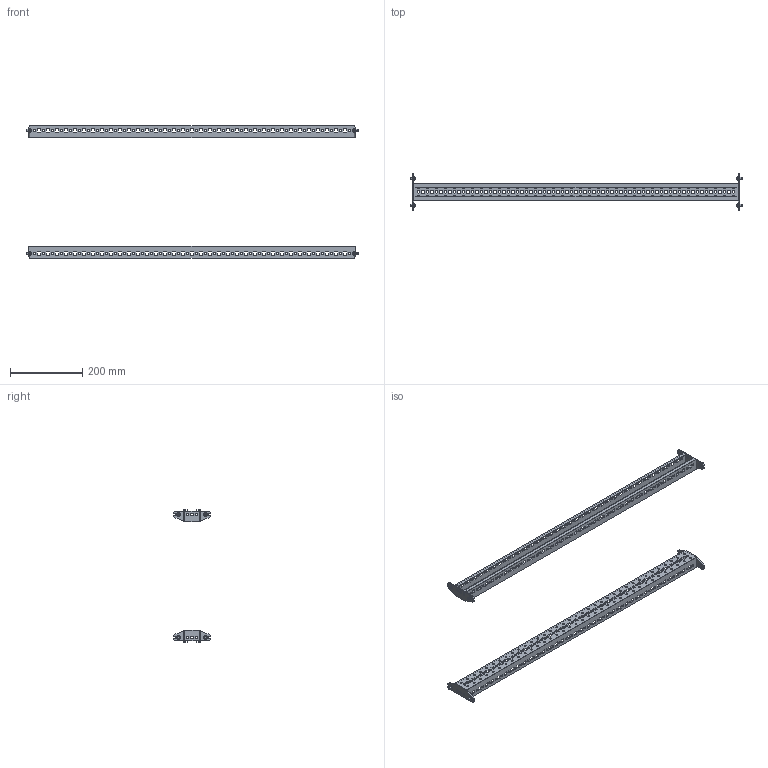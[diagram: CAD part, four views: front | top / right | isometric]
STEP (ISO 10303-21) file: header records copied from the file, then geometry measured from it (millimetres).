
FILE_DESCRIPTION (( 'STEP AP214' ), '1' );
FILE_NAME ('FO-00-VRC-100 Ðåéêà ìîíòàæíàÿ òèïà C 1000 ìì (2 øò.óïàê.).STEP', '2025-10-06T12:54:41', ( '' ), ( '' ), 'SwSTEP 2.0', 'SolidWorks 2023', '' );
FILE_SCHEMA (( 'AUTOMOTIVE_DESIGN' ));
Length unit declared in the file: millimetre
Products named in the file (3): FO-00-VRC-100 Рейка монтажная типа C 1000 мм (2 шт.упак.); Рейка монтажная типа C 1000 мм; Винт М6х10 1000 IEK
Assembly tree (6 placements, depth 2):
  FO-00-VRC-100 Рейка монтажная типа C 1000 мм (2 шт.упак.)
    Рейка монтажная типа C 1000 мм  x2
    Винт М6х10 1000 IEK  x4
Bounding box: 922 x 101.5 x 368 mm (x, y, z)
Volume: 419226.2 mm3; surface area: 457312.5 mm2
Topology: 10 solids, 10 shells, 1988 faces, 5832 edges, 3872 vertices
Faces by surface type: plane 1020, cylinder 920, torus 16, cone 16, sphere 16
Entity records: 32871 total; most frequent: CARTESIAN_POINT 5707, ORIENTED_EDGE 5556, DIRECTION 5468, EDGE_CURVE 2778, VECTOR 1914, LINE 1914, VERTEX_POINT 1848, AXIS2_PLACEMENT_3D 1777
